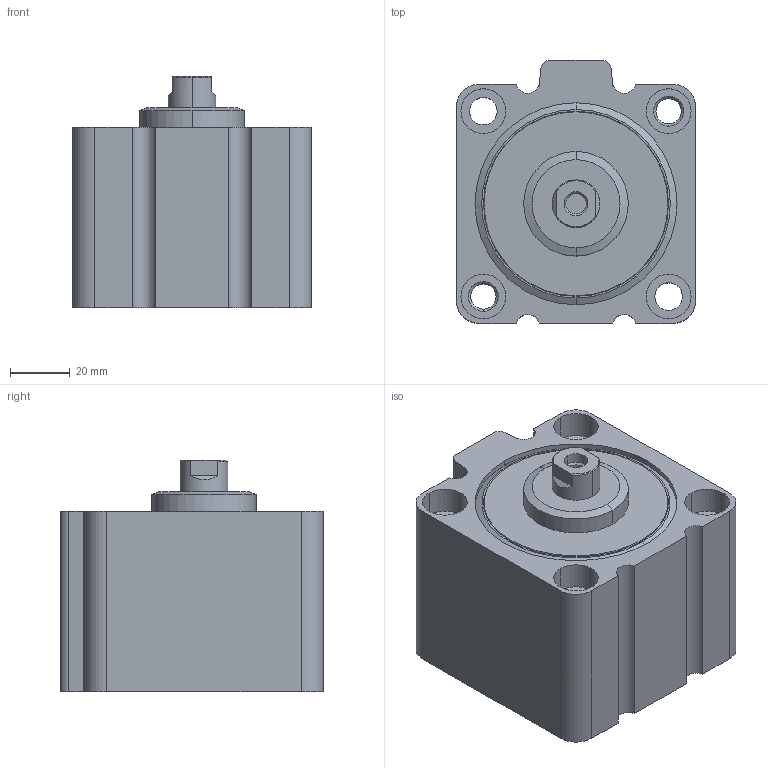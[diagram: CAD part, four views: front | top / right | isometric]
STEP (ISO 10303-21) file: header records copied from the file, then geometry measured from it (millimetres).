
FILE_DESCRIPTION((''),'2;1');
FILE_NAME('0822010574_ASM','2015-07-01T',('vol1hc'),(''),'PRO/ENGINEER BY PARAMETRIC TECHNOLOGY CORPORATION, 2012421','PRO/ENGINEER BY PARAMETRIC TECHNOLOGY CORPORATION, 2012421','');
FILE_SCHEMA(('CONFIG_CONTROL_DESIGN','SHAPE_APPEARANCE_LAYERS_GROUPS'));
Length unit declared in the file: millimetre
Products named in the file (3): 0822010574-A; 0822010574-B; 0822010574_ASM
Assembly tree (2 placements, depth 2):
  0822010574_ASM
    0822010574-A
    0822010574-B
Bounding box: 80 x 88 x 77.5 mm (x, y, z)
Volume: 298901 mm3; surface area: 73228.7 mm2
Topology: 2 solids, 2 shells, 139 faces, 308 edges, 196 vertices
Faces by surface type: cylinder 64, plane 41, cone 30, torus 4
Entity records: 4040 total; most frequent: DIRECTION 762, CARTESIAN_POINT 686, ORIENTED_EDGE 616, AXIS2_PLACEMENT_3D 316, EDGE_CURVE 308, VERTEX_POINT 196, CIRCLE 172, EDGE_LOOP 170
